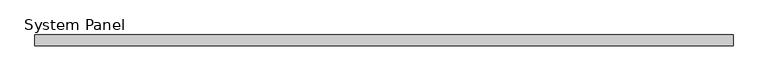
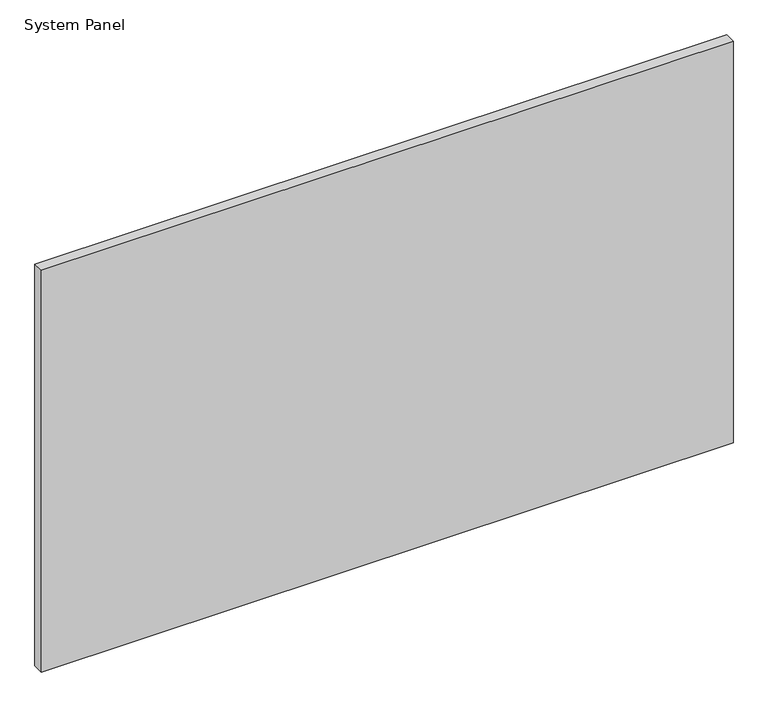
"""IFC4 building model written with IfcOpenShell, lengths in millimetres: plate geometry, System Panel : Glazed - ACMP (AL-1)."""

from ifc_helpers import new_model, si_unit, origin, origin_with_axes, place, context, project, spatial, polyline, outline, extrude, source, transform, mapped, element, save


def system_panel_1bba5f11(model_context):
    return source(origin(), model_context, "Body", "SweptSolid", [
        extrude(outline(polyline([(806.8516712, 0.0), (-806.8516712, 0.0), (-806.8516712, 25.4), (806.8516712, 25.4), (806.8516712, 0.0)])), origin_with_axes(), (0.0, 0.0, 1.0), 990.5999994),
    ])


if __name__ == "__main__":
    model = new_model("IFC4")
    model_context = context("Model", 3, world=origin())
    ifc_project = project(units=[si_unit("LENGTHUNIT", "METRE", prefix="MILLI")], contexts=[model_context])
    site = spatial("IfcSite", under=ifc_project)
    building = spatial("IfcBuilding", under=site)
    placement = place(None, origin())
    system_panel_shape = system_panel_1bba5f11(model_context)
    element("IfcPlate", 1, ObjectType="System Panel : Glazed - ACMP (AL-1)", at=placement, inside=building, context=model_context, shape_type="MappedRepresentation", body=[
        mapped(system_panel_shape, transform((0.0, 0.0, 0.0), x_axis=(1.0, 0.0, 0.0), y_axis=(0.0, 1.0, 0.0), z_axis=(0.0, 0.0, 1.0))),
    ])
    save(model, "model.ifc")
